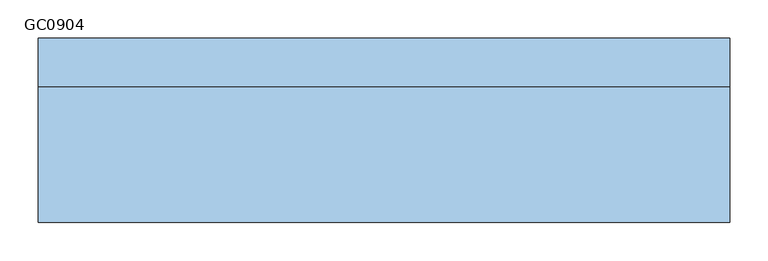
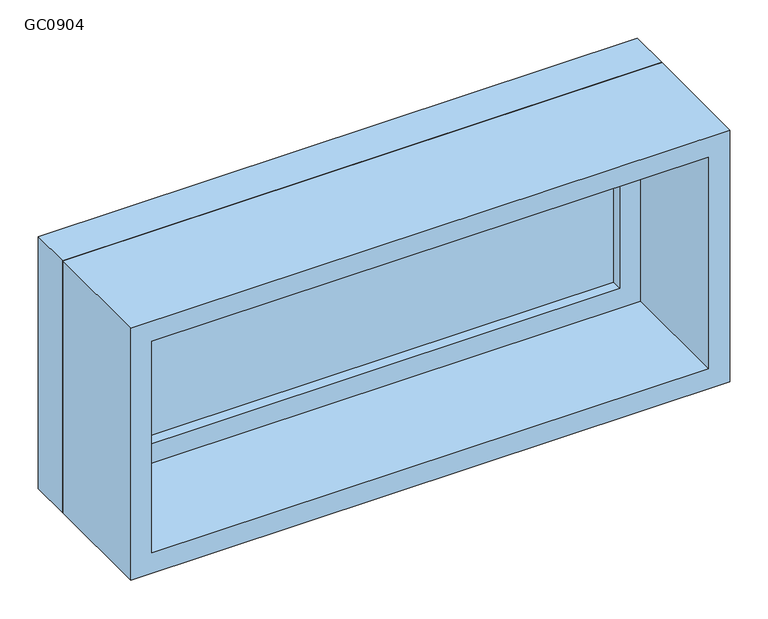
"""IFC4 building model written with IfcOpenShell, lengths in millimetres: window geometry, 固定 : GC0904."""

from ifc_helpers import new_model, si_unit, frame, origin, place, context, project, spatial, polyline, outline, extrude, source, transform, mapped, element, save


def gc0904_cdc2df7b(model_context):
    return source(origin(), model_context, "Body", "SweptSolid", [
        extrude(outline(polyline([(-387.0, 98.0), (387.0, 98.0), (387.0, 86.0), (-387.0, 86.0), (-387.0, 98.0)])), frame((0.0, 0.0, 978.0), z_axis=(0.0, 0.0, 1.0), x_axis=(1.0, 0.0, 0.0)), (0.0, 0.0, 1.0), 274.0),
        extrude(outline(polyline([(1296.0, -431.0), (934.0, -431.0), (934.0, 431.0), (1296.0, 431.0), (1296.0, -431.0)]), holes=[polyline([(1252.0, -387.0), (1252.0, 387.0), (978.0, 387.0), (978.0, -387.0), (1252.0, -387.0)])]), frame((0.0, 70.0, 0.0), z_axis=(0.0, 1.0, 0.0), x_axis=(0.0, 0.0, 1.0)), (0.0, 0.0, 1.0), 44.0),
        extrude(outline(polyline([(1315.0, -450.0), (915.0, -450.0), (915.0, 450.0), (1315.0, 450.0), (1315.0, -450.0)]), holes=[polyline([(1296.0, -431.0), (1296.0, 431.0), (934.0, 431.0), (934.0, -431.0), (1296.0, -431.0)])]), frame((0.0, 70.0, 0.0), z_axis=(0.0, 1.0, 0.0), x_axis=(0.0, 0.0, 1.0)), (0.0, 0.0, 1.0), 63.0),
        extrude(outline(polyline([(1315.0, -450.0), (915.0, -450.0), (915.0, 450.0), (1315.0, 450.0), (1315.0, -450.0)]), holes=[polyline([(1283.0, -418.0), (1283.0, 418.0), (947.0, 418.0), (947.0, -418.0), (1283.0, -418.0)])]), frame((0.0, -107.0, 0.0), z_axis=(0.0, 1.0, 0.0), x_axis=(0.0, 0.0, 1.0)), (0.0, 0.0, 1.0), 177.0),
    ])


if __name__ == "__main__":
    model = new_model("IFC4")
    model_context = context("Model", 3, world=origin())
    ifc_project = project(units=[si_unit("LENGTHUNIT", "METRE", prefix="MILLI")], contexts=[model_context])
    site = spatial("IfcSite", under=ifc_project)
    building = spatial("IfcBuilding", under=site)
    placement = place(None, origin())
    gc0904_shape = gc0904_cdc2df7b(model_context)
    element("IfcWindow", 1, ObjectType="固定 : GC0904", at=placement, inside=building, context=model_context, shape_type="MappedRepresentation", body=[
        mapped(gc0904_shape, transform((0.0, 0.0, 0.0), x_axis=(1.0, 0.0, 0.0), y_axis=(0.0, 1.0, 0.0), z_axis=(0.0, 0.0, 1.0))),
    ])
    save(model, "model.ifc")
